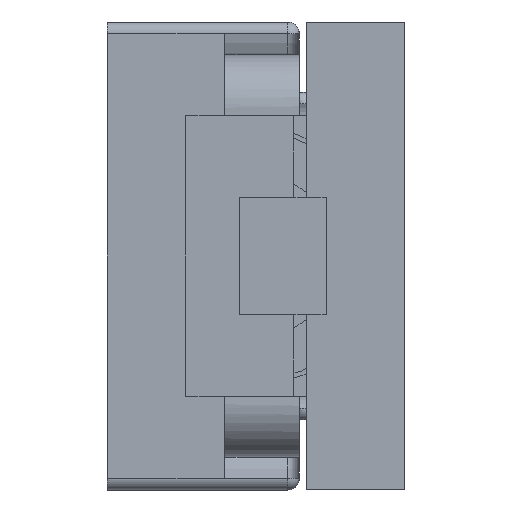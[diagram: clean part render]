
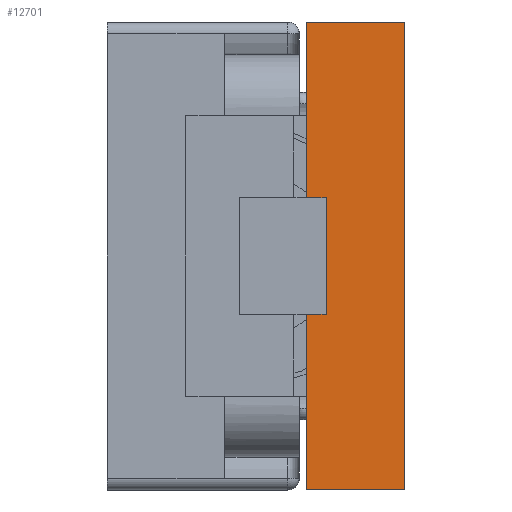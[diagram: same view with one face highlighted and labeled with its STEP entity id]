
A CAD part, left-side view. The second image highlights one B-rep face of the part: STEP entity #12701.
In plain terms, the highlighted planar face has unit normal (-1, 0, 0).
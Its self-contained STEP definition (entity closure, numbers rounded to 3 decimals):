
#352 = CARTESIAN_POINT ( 'NONE',  ( -29.6, -11.51, 8.794 ) ) ;
#353 = PLANE ( 'NONE',  #4403 ) ;
#356 = DIRECTION ( 'NONE',  ( -1., 0., 0. ) ) ;
#357 = DIRECTION ( 'NONE',  ( 0., 0., 1. ) ) ;
#2209 = CARTESIAN_POINT ( 'NONE',  ( -29.6, -10.26, 6.294 ) ) ;
#2253 = CARTESIAN_POINT ( 'NONE',  ( -29.6, -13.61, -1.206 ) ) ;
#2259 = CARTESIAN_POINT ( 'NONE',  ( -29.6, -9.41, -1.206 ) ) ;
#2260 = CARTESIAN_POINT ( 'NONE',  ( -29.6, -10.26, 11.294 ) ) ;
#2261 = CARTESIAN_POINT ( 'NONE',  ( -29.6, -13.61, 18.794 ) ) ;
#2263 = CARTESIAN_POINT ( 'NONE',  ( -29.6, -9.41, 11.294 ) ) ;
#2265 = CARTESIAN_POINT ( 'NONE',  ( -29.6, -9.41, 6.294 ) ) ;
#2969 = EDGE_CURVE ( 'NONE', #11027, #10882, #4521, .T. ) ;
#2983 = EDGE_CURVE ( 'NONE', #10841, #10850, #4501, .T. ) ;
#2996 = EDGE_CURVE ( 'NONE', #10866, #10884, #4487, .T. ) ;
#3024 = EDGE_CURVE ( 'NONE', #10884, #11027, #4450, .T. ) ;
#3033 = EDGE_CURVE ( 'NONE', #10889, #10392, #4432, .T. ) ;
#3052 = EDGE_CURVE ( 'NONE', #10882, #10841, #10159, .T. ) ;
#3053 = EDGE_CURVE ( 'NONE', #10392, #10866, #10140, .T. ) ;
#3555 = CARTESIAN_POINT ( 'NONE',  ( -29.6, -13.61, 18.794 ) ) ;
#3559 = DIRECTION ( 'NONE',  ( 0., -1., 0. ) ) ;
#3594 = CARTESIAN_POINT ( 'NONE',  ( -29.6, -13.61, -1.206 ) ) ;
#3600 = DIRECTION ( 'NONE',  ( 0., 1., 0. ) ) ;
#3632 = CARTESIAN_POINT ( 'NONE',  ( -29.6, -8.82, 11.294 ) ) ;
#3637 = DIRECTION ( 'NONE',  ( 0., 1., 0. ) ) ;
#3709 = CARTESIAN_POINT ( 'NONE',  ( -29.6, -9.41, 18.794 ) ) ;
#3710 = DIRECTION ( 'NONE',  ( 0., 0., 1. ) ) ;
#3727 = CARTESIAN_POINT ( 'NONE',  ( -29.6, -11.51, 6.294 ) ) ;
#3729 = DIRECTION ( 'NONE',  ( 0., -1., 0. ) ) ;
#3783 = CARTESIAN_POINT ( 'NONE',  ( -29.6, -13.61, 18.794 ) ) ;
#3784 = DIRECTION ( 'NONE',  ( 0., 0., -1. ) ) ;
#3785 = CARTESIAN_POINT ( 'NONE',  ( -29.6, -10.26, 6.294 ) ) ;
#3786 = DIRECTION ( 'NONE',  ( 0., 0., 1. ) ) ;
#4403 = AXIS2_PLACEMENT_3D ( 'NONE', #352, #356, #357 ) ;
#4432 = LINE ( 'NONE', #3727, #4686 ) ;
#4445 = VECTOR ( 'NONE', #3710, 1000. ) ;
#4450 = LINE ( 'NONE', #3709, #4445 ) ;
#4485 = VECTOR ( 'NONE', #3637, 1000. ) ;
#4487 = LINE ( 'NONE', #3632, #4485 ) ;
#4499 = VECTOR ( 'NONE', #3600, 1000. ) ;
#4501 = LINE ( 'NONE', #3594, #4499 ) ;
#4516 = VECTOR ( 'NONE', #3559, 1000. ) ;
#4521 = LINE ( 'NONE', #3555, #4516 ) ;
#4686 = VECTOR ( 'NONE', #3729, 1000. ) ;
#4986 = EDGE_LOOP ( 'NONE', ( #5439, #5452, #5470, #5494, #5451, #5537, #5462, #5554 ) ) ;
#5439 = ORIENTED_EDGE ( 'NONE', *, *, #3033, .F. ) ;
#5451 = ORIENTED_EDGE ( 'NONE', *, *, #2969, .F. ) ;
#5452 = ORIENTED_EDGE ( 'NONE', *, *, #11152, .F. ) ;
#5462 = ORIENTED_EDGE ( 'NONE', *, *, #2996, .F. ) ;
#5470 = ORIENTED_EDGE ( 'NONE', *, *, #2983, .F. ) ;
#5494 = ORIENTED_EDGE ( 'NONE', *, *, #3052, .F. ) ;
#5537 = ORIENTED_EDGE ( 'NONE', *, *, #3024, .F. ) ;
#5554 = ORIENTED_EDGE ( 'NONE', *, *, #3053, .F. ) ;
#9322 = VECTOR ( 'NONE', #13486, 1000. ) ;
#9325 = LINE ( 'NONE', #13487, #9322 ) ;
#10021 = FACE_OUTER_BOUND ( 'NONE', #4986, .T. ) ;
#10137 = VECTOR ( 'NONE', #3786, 1000. ) ;
#10139 = VECTOR ( 'NONE', #3784, 1000. ) ;
#10140 = LINE ( 'NONE', #3785, #10137 ) ;
#10159 = LINE ( 'NONE', #3783, #10139 ) ;
#10392 = VERTEX_POINT ( 'NONE', #2209 ) ;
#10841 = VERTEX_POINT ( 'NONE', #2253 ) ;
#10850 = VERTEX_POINT ( 'NONE', #2259 ) ;
#10866 = VERTEX_POINT ( 'NONE', #2260 ) ;
#10882 = VERTEX_POINT ( 'NONE', #2261 ) ;
#10884 = VERTEX_POINT ( 'NONE', #2263 ) ;
#10889 = VERTEX_POINT ( 'NONE', #2265 ) ;
#11027 = VERTEX_POINT ( 'NONE', #13217 ) ;
#11152 = EDGE_CURVE ( 'NONE', #10850, #10889, #9325, .T. ) ;
#12701 = ADVANCED_FACE ( 'NONE', ( #10021 ), #353, .T. ) ;
#13217 = CARTESIAN_POINT ( 'NONE',  ( -29.6, -9.41, 18.794 ) ) ;
#13486 = DIRECTION ( 'NONE',  ( 0., 0., 1. ) ) ;
#13487 = CARTESIAN_POINT ( 'NONE',  ( -29.6, -9.41, 18.794 ) ) ;
